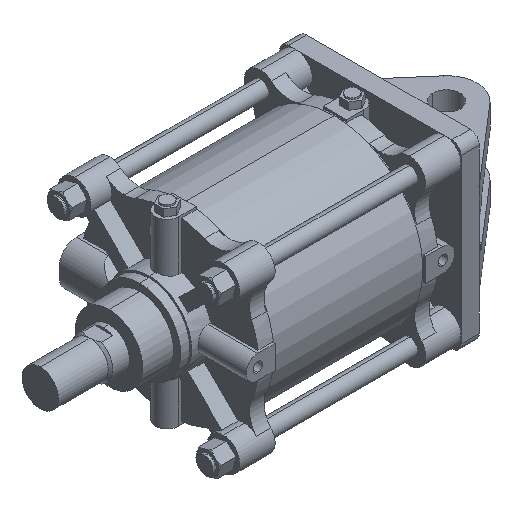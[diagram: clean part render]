
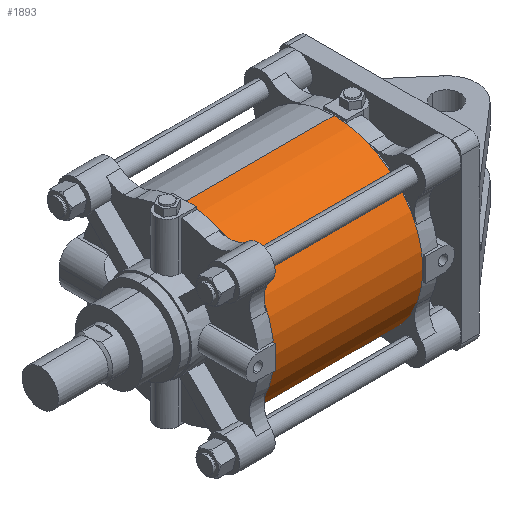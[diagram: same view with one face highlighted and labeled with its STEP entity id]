
A CAD part, isometric view. The second image highlights one B-rep face of the part: STEP entity #1893.
In plain terms, the highlighted cylindrical face has radius 98 mm (diameter 196 mm), a partial arc.
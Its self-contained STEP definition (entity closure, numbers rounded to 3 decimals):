
#666 = CYLINDRICAL_SURFACE ( 'NONE', #10743, 98. ) ;
#832 = ORIENTED_EDGE ( 'NONE', *, *, #9181, .T. ) ;
#1163 = VERTEX_POINT ( 'NONE', #8881 ) ;
#1362 = LINE ( 'NONE', #3139, #7558 ) ;
#1707 = DIRECTION ( 'NONE',  ( -1., 0., 0. ) ) ;
#1800 = VECTOR ( 'NONE', #10765, 1000. ) ;
#1893 = ADVANCED_FACE ( 'NONE', ( #9998 ), #666, .T. ) ;
#1941 = VERTEX_POINT ( 'NONE', #5275 ) ;
#2191 = EDGE_CURVE ( 'NONE', #7536, #1941, #1362, .T. ) ;
#2498 = AXIS2_PLACEMENT_3D ( 'NONE', #2950, #10823, #9983 ) ;
#2512 = VERTEX_POINT ( 'NONE', #6486 ) ;
#2822 = EDGE_LOOP ( 'NONE', ( #9971, #9825, #832, #8244 ) ) ;
#2867 = CIRCLE ( 'NONE', #3510, 98. ) ;
#2881 = DIRECTION ( 'NONE',  ( 0., 0., -1. ) ) ;
#2950 = CARTESIAN_POINT ( 'NONE',  ( 82., 0., 0. ) ) ;
#3139 = CARTESIAN_POINT ( 'NONE',  ( 82., 0., -98. ) ) ;
#3510 = AXIS2_PLACEMENT_3D ( 'NONE', #5019, #5895, #2881 ) ;
#4095 = LINE ( 'NONE', #4647, #1800 ) ;
#4647 = CARTESIAN_POINT ( 'NONE',  ( 82., 0., 98. ) ) ;
#4684 = EDGE_CURVE ( 'NONE', #1163, #7536, #7225, .T. ) ;
#5019 = CARTESIAN_POINT ( 'NONE',  ( -82., 0., 0. ) ) ;
#5275 = CARTESIAN_POINT ( 'NONE',  ( -82., 0., -98. ) ) ;
#5383 = CARTESIAN_POINT ( 'NONE',  ( 82., 0., -98. ) ) ;
#5668 = EDGE_CURVE ( 'NONE', #2512, #1941, #2867, .T. ) ;
#5895 = DIRECTION ( 'NONE',  ( 1., 0., 0. ) ) ;
#6486 = CARTESIAN_POINT ( 'NONE',  ( -82., 0., 98. ) ) ;
#6487 = CARTESIAN_POINT ( 'NONE',  ( 82., 0., 0. ) ) ;
#7225 = CIRCLE ( 'NONE', #2498, 98. ) ;
#7536 = VERTEX_POINT ( 'NONE', #5383 ) ;
#7558 = VECTOR ( 'NONE', #7736, 1000. ) ;
#7560 = DIRECTION ( 'NONE',  ( 0., 0., 1. ) ) ;
#7736 = DIRECTION ( 'NONE',  ( -1., 0., 0. ) ) ;
#8244 = ORIENTED_EDGE ( 'NONE', *, *, #5668, .T. ) ;
#8881 = CARTESIAN_POINT ( 'NONE',  ( 82., 0., 98. ) ) ;
#9181 = EDGE_CURVE ( 'NONE', #1163, #2512, #4095, .T. ) ;
#9825 = ORIENTED_EDGE ( 'NONE', *, *, #4684, .F. ) ;
#9971 = ORIENTED_EDGE ( 'NONE', *, *, #2191, .F. ) ;
#9983 = DIRECTION ( 'NONE',  ( 0., 0., -1. ) ) ;
#9998 = FACE_OUTER_BOUND ( 'NONE', #2822, .T. ) ;
#10743 = AXIS2_PLACEMENT_3D ( 'NONE', #6487, #1707, #7560 ) ;
#10765 = DIRECTION ( 'NONE',  ( -1., 0., 0. ) ) ;
#10823 = DIRECTION ( 'NONE',  ( 1., 0., 0. ) ) ;
